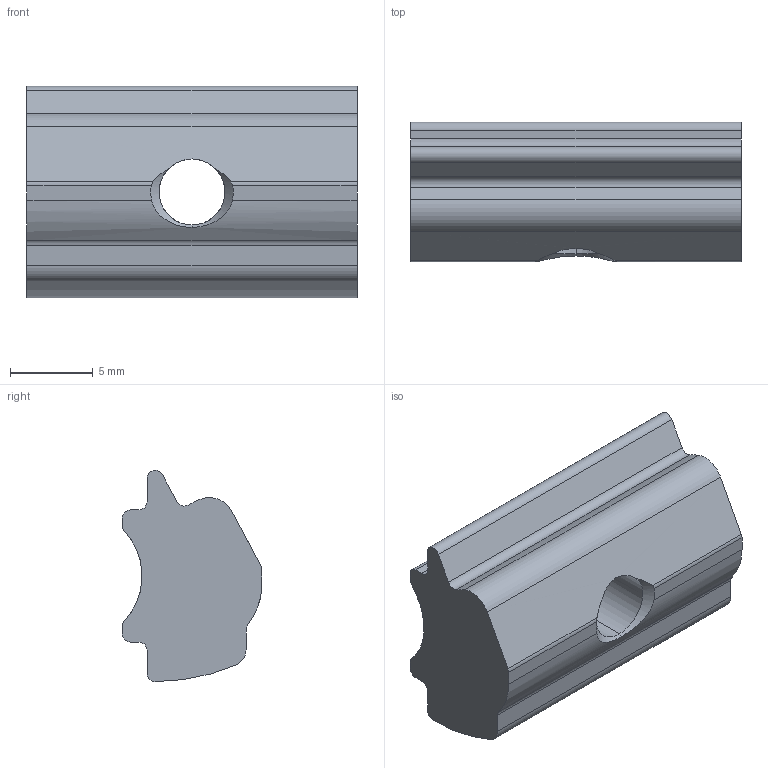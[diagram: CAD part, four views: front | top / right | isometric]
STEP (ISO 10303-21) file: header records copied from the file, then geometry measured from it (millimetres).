
FILE_DESCRIPTION((''),'2;1');
FILE_NAME('E:\端から修正\NAMT-08-4.stp','2013-11-07T16:20:04',('AMS8'),(''),'Autodesk Inventor 2008','Autodesk Inventor 2008','');
FILE_SCHEMA(('AUTOMOTIVE_DESIGN { 1 0 10303 214 1 1 1 1 }'));
Length unit declared in the file: millimetre
Products named in the file (4): NAST-08-4; DEFAULT; DEFAULTA
Assembly tree (3 placements, depth 3):
  NAST-08-4
    DEFAULT
      DEFAULT
      DEFAULTA
Bounding box: 20 x 8.45 x 12.8 mm (x, y, z)
Volume: 1403 mm3; surface area: 962.7 mm2
Topology: 1 solids, 1 shells, 40 faces, 137 edges, 97 vertices
Faces by surface type: cylinder 23, plane 13, cone 4
Entity records: 1714 total; most frequent: CARTESIAN_POINT 428, ORIENTED_EDGE 274, DIRECTION 245, EDGE_CURVE 137, VERTEX_POINT 97, AXIS2_PLACEMENT_3D 93, VECTOR 59, LINE 59
